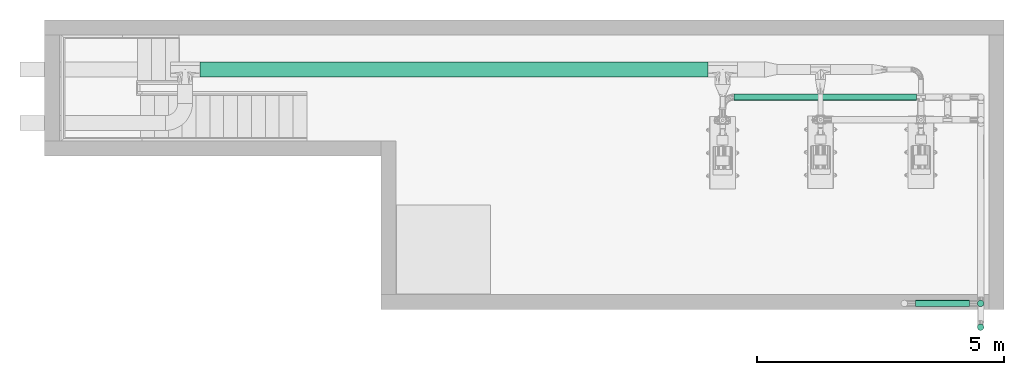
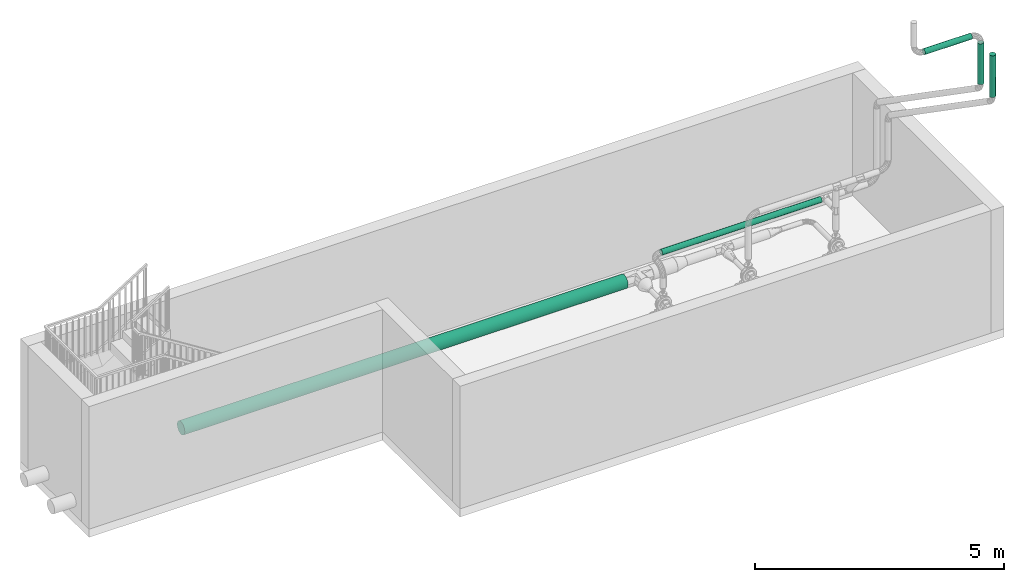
# One storey, part 4 of 12: 5 flow segments.
"""IFC2X3 building model written with IfcOpenShell, lengths in millimetres."""

import ifcopenshell
import ifcopenshell.guid

model = None  # the IFC model being written
_history = None  # IfcOwnerHistory: only IFC2X3 demands one
_inside = {}  # id of a spatial element -> (the spatial element, [elements in it])
_under = {}  # id of a project, library or spatial element -> (it, [spatial elements below it])
_declared = {}  # id of a project -> (the project, [libraries it declares])
_typed = {}  # id of a type object -> (the type object, [elements of that type])
_made_of = {}  # id of a material, layer set ... -> (it, [elements and type objects made of it])


def new_model(schema):
    """Start an empty IFC model of exactly this schema.

    Asked for "IFC4X3", IfcOpenShell would pick the latest addendum, in which some entities
    have other attributes; the version numbers below select the first issue.
    IFC2X3 requires an IfcOwnerHistory on every rooted entity: one is made here for all.
    """
    global model, _history
    if schema == "IFC4X3":
        model = ifcopenshell.file(schema_version=(4, 3, 0, 0))
    else:
        model = ifcopenshell.file(schema=schema)
    _inside.clear()
    _under.clear()
    _declared.clear()
    _typed.clear()
    _made_of.clear()
    _history = None
    if model.schema == "IFC2X3":
        org = make("IfcOrganization", Name="unknown")
        user = make(
            "IfcPersonAndOrganization",
            ThePerson=make("IfcPerson", FamilyName="unknown"),
            TheOrganization=org,
        )
        app = make(
            "IfcApplication",
            ApplicationDeveloper=org,
            Version="unknown",
            ApplicationFullName="unknown",
            ApplicationIdentifier="unknown",
        )
        _history = make(
            "IfcOwnerHistory",
            OwningUser=user,
            OwningApplication=app,
            ChangeAction="ADDED",
            CreationDate=0,
        )
    return model


def make(cls, **values):
    """One entity of the class cls with the attributes given. An attribute that is None is left unset."""
    return model.create_entity(
        cls, **{name: value for name, value in values.items() if value is not None}
    )


def entity(cls, *values):
    """Any entity or typed value of the class cls, its attributes in the order of the schema. None: left unset."""
    e = model.create_entity(cls)
    for i, value in enumerate(values):
        if value is not None:
            e[i] = value
    return e


def rooted(cls, **values):
    """An entity with a GlobalId (a new one), such as an element, a storey or a relation."""
    return make(cls, GlobalId=ifcopenshell.guid.new(), OwnerHistory=_history, **values)


def si_unit(unit_type, name, prefix=None):
    """IfcSIUnit, for example si_unit("LENGTHUNIT", "METRE", prefix="MILLI")."""
    return make("IfcSIUnit", UnitType=unit_type, Prefix=prefix, Name=name)


def converted_unit(unit_type, name, factor, base, dimensions=None, offset=None):
    """IfcConversionBasedUnit, such as the inch: factor (a typed value) times the base unit."""
    return make(
        "IfcConversionBasedUnit"
        if offset is None
        else "IfcConversionBasedUnitWithOffset",
        ConversionOffset=offset,
        Dimensions=None
        if dimensions is None
        else entity("IfcDimensionalExponents", *dimensions),
        UnitType=unit_type,
        Name=name,
        ConversionFactor=make(
            "IfcMeasureWithUnit", ValueComponent=factor, UnitComponent=base
        ),
    )


def assignment(units):
    """IfcUnitAssignment: the units of a project."""
    return None if units is None else make("IfcUnitAssignment", Units=units)


def point(xyz):
    """IfcCartesianPoint."""
    return None if xyz is None else make("IfcCartesianPoint", Coordinates=xyz)


def direction(xyz):
    """IfcDirection."""
    return None if xyz is None else make("IfcDirection", DirectionRatios=xyz)


def frame(location, z_axis=None, x_axis=None):
    """IfcAxis2Placement3D, a coordinate frame: its origin and axes. An axis left out is left unset."""
    return make(
        "IfcAxis2Placement3D",
        Location=point(location),
        Axis=direction(z_axis),
        RefDirection=direction(x_axis),
    )


def frame_2d(location, x_axis=None):
    """IfcAxis2Placement2D, a coordinate frame in the plane: its origin and x axis."""
    return make(
        "IfcAxis2Placement2D", Location=point(location), RefDirection=direction(x_axis)
    )


def origin():
    """The frame at (0, 0, 0) with its axes left unset."""
    return frame((0.0, 0.0, 0.0))


def origin_2d_with_axis():
    """The frame at (0, 0) in the plane with the x axis (1, 0) written out."""
    return frame_2d((0.0, 0.0), x_axis=(1.0, 0.0))


def place(relative_to, where):
    """IfcLocalPlacement: puts the frame where relative to a parent placement (None: the world)."""
    return make(
        "IfcLocalPlacement", PlacementRelTo=relative_to, RelativePlacement=where
    )


def context(
    kind, dimensions, precision=None, world=None, true_north=None, identifier=None
):
    """IfcGeometricRepresentationContext, for example the 3D "Model" context."""
    return make(
        "IfcGeometricRepresentationContext",
        ContextIdentifier=identifier,
        ContextType=kind,
        CoordinateSpaceDimension=dimensions,
        Precision=precision,
        WorldCoordinateSystem=world,
        TrueNorth=true_north,
    )


def subcontext(parent, identifier, kind, view, scale=None):
    """IfcGeometricRepresentationSubContext, for example "Body" below "Model"."""
    return make(
        "IfcGeometricRepresentationSubContext",
        ContextIdentifier=identifier,
        ContextType=kind,
        ParentContext=parent,
        TargetScale=scale,
        TargetView=view,
    )


def project(units=None, contexts=None):
    """IfcProject with its units and contexts."""
    return rooted(
        "IfcProject",
        Name="project",
        RepresentationContexts=contexts,
        UnitsInContext=assignment(units),
    )


def spatial(cls, under=None, at=None, **own):
    """A site, building, storey or space (cls), placed at a placement, below another one or the project."""
    s = rooted(cls, ObjectPlacement=at, **own)
    if under is not None:
        _under.setdefault(under.id(), (under, []))[1].append(s)
    return s


def profile(cls, at=None, kind="AREA", **sizes):
    """A parametric profile (cls). Its sizes go by their IFC names, for example OverallWidth=200.0."""
    return make(cls, ProfileType=kind, Position=at, **sizes)


def circle(**sizes):
    """IfcCircleProfileDef."""
    return profile("IfcCircleProfileDef", **sizes)


def extrude(swept, where, along, depth):
    """IfcExtrudedAreaSolid: the profile swept, set in the frame where, extruded along a direction by depth."""
    return make(
        "IfcExtrudedAreaSolid",
        SweptArea=swept,
        Position=where,
        ExtrudedDirection=direction(along),
        Depth=depth,
    )


def shape(context_of_items, identifier, shape_type, items):
    """IfcShapeRepresentation: the items that make up one representation, for example the "Body"."""
    return make(
        "IfcShapeRepresentation",
        ContextOfItems=context_of_items,
        RepresentationIdentifier=identifier,
        RepresentationType=shape_type,
        Items=items,
    )


def material(Name=None, Category=None):
    """IfcMaterial."""
    return make("IfcMaterial", Name=Name, Category=Category)


def made_of(thing, what):
    """Note that an element or type object is made of a material, layer set ...; save() writes the relation."""
    if what is not None:
        _made_of.setdefault(what.id(), (what, []))[1].append(thing)
    return thing


def type_object(cls, material=None, **own):
    """A type object (cls), such as IfcWallType, which elements share."""
    return made_of(rooted(cls, **own), material)


def element(
    cls,
    number,
    at=None,
    inside=None,
    cuts=None,
    type_object=None,
    material=None,
    context=None,
    identifier="Body",
    shape_type=None,
    held_by="IfcProductDefinitionShape",
    body=None,
    shapes=None,
    **own,
):
    """One element of the class cls, such as IfcWall. Its Tag is "e" and its number.

    at: its placement. inside: the storey or other place that contains it. cuts: it is an
    opening in that element (IfcRelVoidsElement). A single representation is given by context,
    identifier, shape_type and body (its items); several are given by shapes. held_by: the class
    of the entity that holds the representations. save() writes the other relations.
    """
    e = rooted(cls, Tag="e%d" % number, ObjectPlacement=at, **own)
    if body is not None:
        shapes = [shape(context, identifier, shape_type, body)]
    if shapes is not None:
        e.Representation = make(held_by, Representations=shapes)
    if inside is not None:
        _inside.setdefault(inside.id(), (inside, []))[1].append(e)
    if cuts is not None:
        rooted(
            "IfcRelVoidsElement", RelatingBuildingElement=cuts, RelatedOpeningElement=e
        )
    if type_object is not None:
        _typed.setdefault(type_object.id(), (type_object, []))[1].append(e)
    return made_of(e, material)


def aggregate(whole, parts):
    """IfcRelAggregates: a whole, such as a stair, and the parts it consists of."""
    return rooted("IfcRelAggregates", RelatingObject=whole, RelatedObjects=parts)


def save(model, path):
    """Write the relations noted so far, then the file.

    IfcRelAggregates (storeys below a building ...), IfcRelContainedInSpatialStructure (elements
    in a storey), IfcRelDefinesByType, IfcRelAssociatesMaterial and IfcRelDeclares: one each for
    every whole, place, type object, material and project.
    """
    for whole, parts in _under.values():
        aggregate(whole, parts)
    for where, things in _inside.values():
        rooted(
            "IfcRelContainedInSpatialStructure",
            RelatedElements=things,
            RelatingStructure=where,
        )
    for kind, things in _typed.values():
        rooted("IfcRelDefinesByType", RelatedObjects=things, RelatingType=kind)
    for what, things in _made_of.values():
        rooted("IfcRelAssociatesMaterial", RelatedObjects=things, RelatingMaterial=what)
    for by, libraries in _declared.values():
        rooted("IfcRelDeclares", RelatingContext=by, RelatedDefinitions=libraries)
    model.write(path)


model = new_model("IFC2X3")

# Units and contexts
model_context = context("Model", 3, precision=0.01, world=origin(), true_north=direction((6.123031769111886e-17, 1.0)))
body_context = subcontext(model_context, "Body", "Model", "MODEL_VIEW")
ifc_project = project(units=[si_unit("LENGTHUNIT", "METRE", prefix="MILLI"), converted_unit("PLANEANGLEUNIT", "DEGREE", entity("IfcPlaneAngleMeasure", 0.017453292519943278), si_unit("PLANEANGLEUNIT", "RADIAN"), dimensions=[0, 0, 0, 0, 0, 0, 0]), si_unit("AREAUNIT", "SQUARE_METRE")], contexts=[model_context])

# Site, building, storey
site_placement = place(None, frame((7776.576483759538, 118.3519876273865, 0.0)))
site = spatial("IfcSite", under=ifc_project, at=site_placement, Name="Default", CompositionType="ELEMENT")
building_placement = place(site_placement, origin())
building = spatial("IfcBuilding", under=site, at=building_placement, Name="Bygning (endres i Project Information)", CompositionType="ELEMENT")
storey_placement = place(building_placement, frame((0.0, 0.0, 11000.0)))
storey = spatial("IfcBuildingStorey", under=building, at=storey_placement, Name="Plan U2 - Arbeid", CompositionType="ELEMENT", Elevation=10999.999999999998)

# Flow segments
ifc_material = material(Name="SS 2343 Rustfritt stål, prosessrør, generisk")
pipe_segment_type = type_object("IfcPipeSegmentType", Name="Pipe Types:AISI 304L Rustfritt", PredefinedType="NOTDEFINED", material=ifc_material)
flow_segment_1_placement = place(storey_placement, origin())
element("IfcFlowSegment", 1, at=flow_segment_1_placement, inside=storey, type_object=pipe_segment_type, Name="Pipe Types:AISI 304L Rustfritt", ObjectType="Pipe Types:AISI 304L Rustfritt", context=body_context, shape_type="SweptSolid", body=[
    extrude(circle(Radius=65.5, at=frame_2d((-8.318927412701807e-16, -4.331468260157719e-12), x_axis=(1.0, 0.0))), frame((31801.408089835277, 28385.82388474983, 6085.722278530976), z_axis=(0.00038411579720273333, -1.1868300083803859e-07, 0.9999999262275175), x_axis=(0.9999999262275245, 0.0, -0.00038411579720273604)), (0.0, 0.0, 1.0), 1023.6913709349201),
])
flow_segment_2_placement = place(storey_placement, origin())
element("IfcFlowSegment", 2, at=flow_segment_2_placement, inside=storey, type_object=pipe_segment_type, Name="Pipe Types:AISI 304L Rustfritt", ObjectType="Pipe Types:AISI 304L Rustfritt", context=body_context, shape_type="SweptSolid", body=[
    extrude(circle(Radius=65.5, at=frame_2d((-4.331468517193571e-12, 0.0), x_axis=(1.0, 0.0))), frame((30483.501374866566, 28865.823731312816, 7334.5), z_axis=(1.0, 0.0, 0.0), x_axis=(0.0, 1.0, 0.0)), (0.0, 0.0, 1.0), 1093.7042923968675),
])
flow_segment_3_placement = place(storey_placement, origin())
element("IfcFlowSegment", 3, at=flow_segment_3_placement, inside=storey, type_object=pipe_segment_type, Name="Pipe Types:AISI 304L Rustfritt", ObjectType="Pipe Types:AISI 304L Rustfritt", context=body_context, shape_type="SweptSolid", body=[
    extrude(circle(Radius=65.5, at=frame_2d((2.539536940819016e-19, 0.0), x_axis=(1.0, 0.0))), frame((26808.99325772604, 33038.464659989, 1180.6961145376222), z_axis=(1.0, 5.8629929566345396e-08, 0.0), x_axis=(5.8629929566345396e-08, -1.0, 0.0)), (0.0, 0.0, 1.0), 3697.4532390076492),
])
flow_segment_4_placement = place(storey_placement, origin())
element("IfcFlowSegment", 4, at=flow_segment_4_placement, inside=storey, type_object=pipe_segment_type, Name="Pipe Types:AISI 304L Rustfritt", ObjectType="Pipe Types:AISI 304L Rustfritt", context=body_context, shape_type="SweptSolid", body=[
    extrude(circle(Radius=153.0, at=frame_2d((-8.030101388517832e-18, -1.5481702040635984e-18), x_axis=(1.0, 0.0))), frame((16013.999532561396, 33597.76358302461, 320.20074700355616), z_axis=(1.0, 3.7077962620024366e-06, 7.148477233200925e-07), x_axis=(3.707796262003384e-06, -1.0, 0.0)), (0.0, 0.0, 1.0), 10269.987443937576),
])
flow_segment_5_placement = place(storey_placement, origin())
element("IfcFlowSegment", 5, at=flow_segment_5_placement, inside=storey, type_object=pipe_segment_type, Name="Pipe Types:AISI 304L Rustfritt", ObjectType="Pipe Types:AISI 304L Rustfritt", context=body_context, shape_type="SweptSolid", body=[
    extrude(circle(Radius=65.5, at=origin_2d_with_axis()), frame((31802.18163063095, 28865.8238462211, 6112.313347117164)), (0.0, 0.0, 1.0), 997.186653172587),
])

save(model, "model.ifc")
